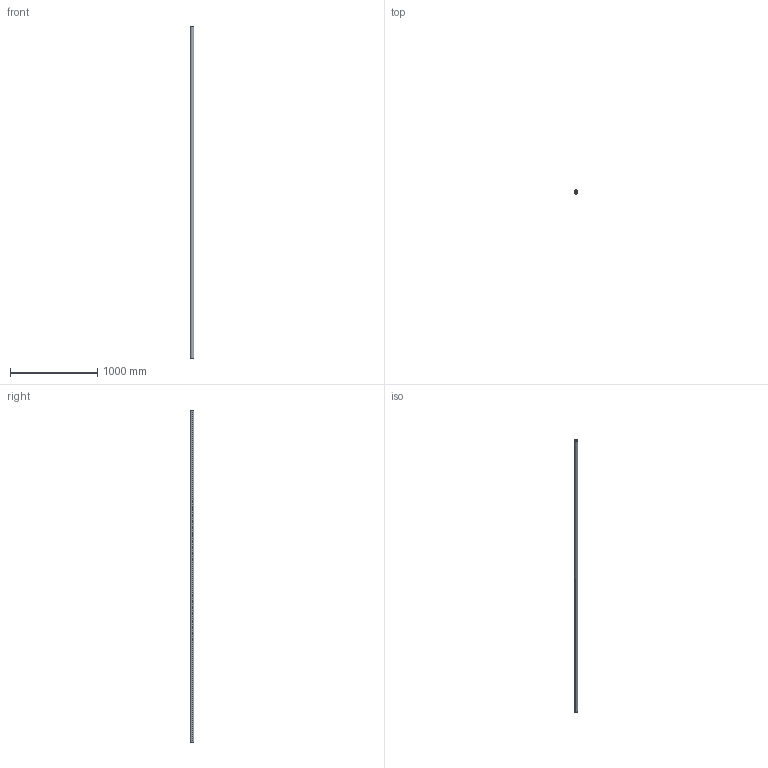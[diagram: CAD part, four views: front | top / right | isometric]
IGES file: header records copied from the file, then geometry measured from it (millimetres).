
Start section: SolidWorks IGES file using analytic representation for surfaces
Global section: file name: C:\Users\IanO\Desktop\L1771_v2\L1771.40_v2\L1771.40_v2_20230705_IGES\L1771.40-3800.igs; native system: SolidWorks 2019; preprocessor: SolidWorks 2019; author: IanO; date: 230705.162118; units: millimetre
Bounding box: 40 x 40 x 3800 mm (x, y, z)
Surface area: 813069.3 mm2 (no closed solid volume)
Topology: 0 solids, 0 shells, 6 faces, 272 edges, 272 vertices
Faces by surface type: revolution 4, bspline 2
